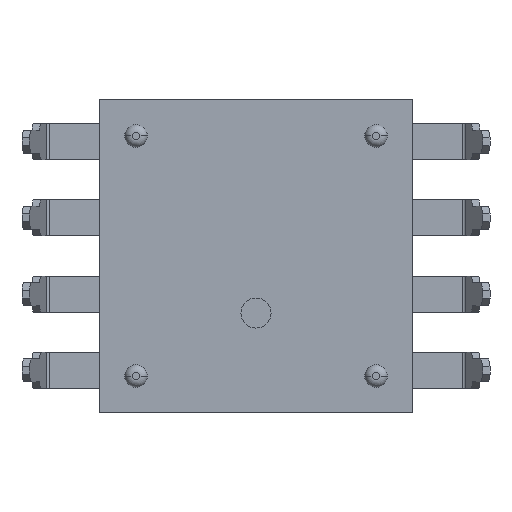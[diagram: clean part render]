
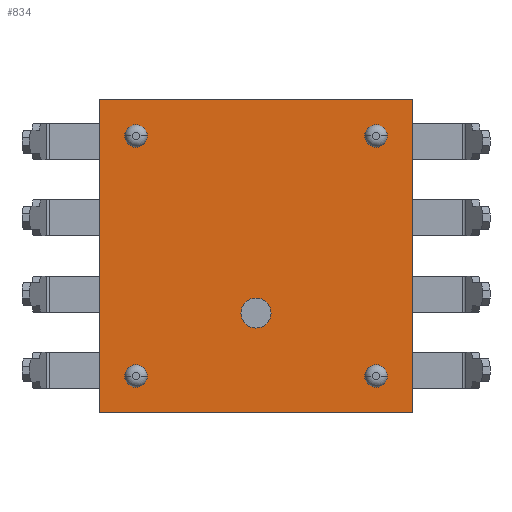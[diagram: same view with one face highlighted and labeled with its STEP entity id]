
A CAD part, front view. The second image highlights one B-rep face of the part: STEP entity #834.
In plain terms, the highlighted planar face has unit normal (0, -1, 0).
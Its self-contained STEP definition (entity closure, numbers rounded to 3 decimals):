
#9 = ORIENTED_EDGE ( 'NONE', *, *, #1480, .F. ) ;
#13 = EDGE_LOOP ( 'NONE', ( #532, #9 ) ) ;
#19 = ORIENTED_EDGE ( 'NONE', *, *, #1425, .F. ) ;
#20 = EDGE_CURVE ( 'NONE', #1469, #1371, #2009, .T. ) ;
#52 = EDGE_CURVE ( 'NONE', #1364, #1360, #2085, .T. ) ;
#532 = ORIENTED_EDGE ( 'NONE', *, *, #20, .F. ) ;
#757 = EDGE_LOOP ( 'NONE', ( #763, #767 ) ) ;
#758 = EDGE_CURVE ( 'NONE', #1459, #1468, #3259, .T. ) ;
#759 = ORIENTED_EDGE ( 'NONE', *, *, #827, .F. ) ;
#760 = EDGE_LOOP ( 'NONE', ( #769, #826, #759, #762 ) ) ;
#761 = ORIENTED_EDGE ( 'NONE', *, *, #758, .F. ) ;
#762 = ORIENTED_EDGE ( 'NONE', *, *, #828, .F. ) ;
#763 = ORIENTED_EDGE ( 'NONE', *, *, #1429, .F. ) ;
#764 = EDGE_CURVE ( 'NONE', #765, #766, #3250, .T. ) ;
#765 = VERTEX_POINT ( 'NONE', #3252 ) ;
#766 = VERTEX_POINT ( 'NONE', #3224 ) ;
#767 = ORIENTED_EDGE ( 'NONE', *, *, #793, .F. ) ;
#768 = EDGE_CURVE ( 'NONE', #824, #765, #3313, .T. ) ;
#769 = ORIENTED_EDGE ( 'NONE', *, *, #764, .F. ) ;
#785 = ORIENTED_EDGE ( 'NONE', *, *, #1472, .F. ) ;
#788 = EDGE_CURVE ( 'NONE', #1411, #1409, #3334, .T. ) ;
#793 = EDGE_CURVE ( 'NONE', #1414, #1415, #3320, .T. ) ;
#796 = EDGE_LOOP ( 'NONE', ( #836, #835 ) ) ;
#824 = VERTEX_POINT ( 'NONE', #3373 ) ;
#825 = EDGE_LOOP ( 'NONE', ( #831, #19 ) ) ;
#826 = ORIENTED_EDGE ( 'NONE', *, *, #768, .F. ) ;
#827 = EDGE_CURVE ( 'NONE', #833, #824, #3345, .T. ) ;
#828 = EDGE_CURVE ( 'NONE', #766, #833, #3392, .T. ) ;
#831 = ORIENTED_EDGE ( 'NONE', *, *, #52, .F. ) ;
#832 = EDGE_LOOP ( 'NONE', ( #785, #761 ) ) ;
#833 = VERTEX_POINT ( 'NONE', #3390 ) ;
#834 = ADVANCED_FACE ( 'NONE', ( #3377, #3389, #3382, #3400, #3396, #3376 ), #3385, .T. ) ;
#835 = ORIENTED_EDGE ( 'NONE', *, *, #1437, .F. ) ;
#836 = ORIENTED_EDGE ( 'NONE', *, *, #788, .F. ) ;
#1360 = VERTEX_POINT ( 'NONE', #4286 ) ;
#1364 = VERTEX_POINT ( 'NONE', #4338 ) ;
#1371 = VERTEX_POINT ( 'NONE', #4319 ) ;
#1409 = VERTEX_POINT ( 'NONE', #4387 ) ;
#1411 = VERTEX_POINT ( 'NONE', #4422 ) ;
#1414 = VERTEX_POINT ( 'NONE', #4417 ) ;
#1415 = VERTEX_POINT ( 'NONE', #4416 ) ;
#1425 = EDGE_CURVE ( 'NONE', #1360, #1364, #4456, .T. ) ;
#1429 = EDGE_CURVE ( 'NONE', #1415, #1414, #4438, .T. ) ;
#1437 = EDGE_CURVE ( 'NONE', #1409, #1411, #4430, .T. ) ;
#1459 = VERTEX_POINT ( 'NONE', #4518 ) ;
#1468 = VERTEX_POINT ( 'NONE', #4539 ) ;
#1469 = VERTEX_POINT ( 'NONE', #4552 ) ;
#1472 = EDGE_CURVE ( 'NONE', #1468, #1459, #4540, .T. ) ;
#1480 = EDGE_CURVE ( 'NONE', #1371, #1469, #4533, .T. ) ;
#1578 = DIRECTION ( 'NONE',  ( 1., 0., 0. ) ) ;
#1579 = DIRECTION ( 'NONE',  ( 0., -1., 0. ) ) ;
#2001 = DIRECTION ( 'NONE',  ( -1., 0., 0. ) ) ;
#2002 = DIRECTION ( 'NONE',  ( 0., -1., 0. ) ) ;
#2003 = CARTESIAN_POINT ( 'NONE',  ( -4., 0.25, -4. ) ) ;
#2008 = AXIS2_PLACEMENT_3D ( 'NONE', #2003, #2002, #2001 ) ;
#2009 = CIRCLE ( 'NONE', #2008, 0.375 ) ;
#2070 = DIRECTION ( 'NONE',  ( -1., 0., 0. ) ) ;
#2071 = DIRECTION ( 'NONE',  ( 0., -1., 0. ) ) ;
#2081 = AXIS2_PLACEMENT_3D ( 'NONE', #2090, #2071, #2070 ) ;
#2085 = CIRCLE ( 'NONE', #2081, 0.375 ) ;
#2090 = CARTESIAN_POINT ( 'NONE',  ( 4., 0.25, 4. ) ) ;
#3224 = CARTESIAN_POINT ( 'NONE',  ( -5.2, 0.25, 5.2 ) ) ;
#3248 = VECTOR ( 'NONE', #3314, 1000. ) ;
#3249 = CARTESIAN_POINT ( 'NONE',  ( -5.2, 0.25, 5.2 ) ) ;
#3250 = LINE ( 'NONE', #3249, #3248 ) ;
#3252 = CARTESIAN_POINT ( 'NONE',  ( -5.2, 0.25, -5.2 ) ) ;
#3254 = DIRECTION ( 'NONE',  ( 1., 0., 0. ) ) ;
#3255 = DIRECTION ( 'NONE',  ( 0., -1., 0. ) ) ;
#3259 = CIRCLE ( 'NONE', #3276, 0.375 ) ;
#3266 = CARTESIAN_POINT ( 'NONE',  ( 4., 0.25, -4. ) ) ;
#3276 = AXIS2_PLACEMENT_3D ( 'NONE', #3266, #3255, #3254 ) ;
#3281 = DIRECTION ( 'NONE',  ( 0., -1., 0. ) ) ;
#3308 = DIRECTION ( 'NONE',  ( -1., 0., 0. ) ) ;
#3309 = VECTOR ( 'NONE', #3308, 1000. ) ;
#3312 = CARTESIAN_POINT ( 'NONE',  ( -5.2, 0.25, -5.2 ) ) ;
#3313 = LINE ( 'NONE', #3312, #3309 ) ;
#3314 = DIRECTION ( 'NONE',  ( 0., 0., 1. ) ) ;
#3320 = CIRCLE ( 'NONE', #3331, 0.375 ) ;
#3324 = DIRECTION ( 'NONE',  ( 1., 0., 0. ) ) ;
#3326 = AXIS2_PLACEMENT_3D ( 'NONE', #3332, #3281, #3324 ) ;
#3331 = AXIS2_PLACEMENT_3D ( 'NONE', #3333, #1579, #1578 ) ;
#3332 = CARTESIAN_POINT ( 'NONE',  ( 0., 0.25, -1.9 ) ) ;
#3333 = CARTESIAN_POINT ( 'NONE',  ( -4., 0.25, 4. ) ) ;
#3334 = CIRCLE ( 'NONE', #3326, 0.5 ) ;
#3345 = LINE ( 'NONE', #3353, #3393 ) ;
#3352 = DIRECTION ( 'NONE',  ( 0., 0., -1. ) ) ;
#3353 = CARTESIAN_POINT ( 'NONE',  ( 5.2, 0.25, 5.2 ) ) ;
#3373 = CARTESIAN_POINT ( 'NONE',  ( 5.2, 0.25, -5.2 ) ) ;
#3376 = FACE_BOUND ( 'NONE', #13, .T. ) ;
#3377 = FACE_BOUND ( 'NONE', #796, .T. ) ;
#3381 = AXIS2_PLACEMENT_3D ( 'NONE', #3383, #3442, #3441 ) ;
#3382 = FACE_BOUND ( 'NONE', #757, .T. ) ;
#3383 = CARTESIAN_POINT ( 'NONE',  ( -5.2, 0.25, -5.2 ) ) ;
#3385 = PLANE ( 'NONE',  #3381 ) ;
#3387 = DIRECTION ( 'NONE',  ( 1., 0., 0. ) ) ;
#3388 = VECTOR ( 'NONE', #3387, 1000. ) ;
#3389 = FACE_BOUND ( 'NONE', #832, .T. ) ;
#3390 = CARTESIAN_POINT ( 'NONE',  ( 5.2, 0.25, 5.2 ) ) ;
#3391 = CARTESIAN_POINT ( 'NONE',  ( -5.2, 0.25, 5.2 ) ) ;
#3392 = LINE ( 'NONE', #3391, #3388 ) ;
#3393 = VECTOR ( 'NONE', #3352, 1000. ) ;
#3396 = FACE_BOUND ( 'NONE', #825, .T. ) ;
#3400 = FACE_OUTER_BOUND ( 'NONE', #760, .T. ) ;
#3441 = DIRECTION ( 'NONE',  ( 1., 0., 0. ) ) ;
#3442 = DIRECTION ( 'NONE',  ( 0., -1., 0. ) ) ;
#4286 = CARTESIAN_POINT ( 'NONE',  ( 4.375, 0.25, 4. ) ) ;
#4319 = CARTESIAN_POINT ( 'NONE',  ( -3.625, 0.25, -4. ) ) ;
#4338 = CARTESIAN_POINT ( 'NONE',  ( 3.625, 0.25, 4. ) ) ;
#4387 = CARTESIAN_POINT ( 'NONE',  ( -0.5, 0.25, -1.9 ) ) ;
#4416 = CARTESIAN_POINT ( 'NONE',  ( -3.625, 0.25, 4. ) ) ;
#4417 = CARTESIAN_POINT ( 'NONE',  ( -4.375, 0.25, 4. ) ) ;
#4422 = CARTESIAN_POINT ( 'NONE',  ( 0.5, 0.25, -1.9 ) ) ;
#4430 = CIRCLE ( 'NONE', #4493, 0.5 ) ;
#4435 = DIRECTION ( 'NONE',  ( 1., 0., 0. ) ) ;
#4436 = DIRECTION ( 'NONE',  ( 0., -1., 0. ) ) ;
#4437 = AXIS2_PLACEMENT_3D ( 'NONE', #4451, #4436, #4435 ) ;
#4438 = CIRCLE ( 'NONE', #4437, 0.375 ) ;
#4446 = DIRECTION ( 'NONE',  ( -1., 0., 0. ) ) ;
#4447 = DIRECTION ( 'NONE',  ( 0., -1., 0. ) ) ;
#4448 = CARTESIAN_POINT ( 'NONE',  ( 4., 0.25, 4. ) ) ;
#4449 = AXIS2_PLACEMENT_3D ( 'NONE', #4448, #4447, #4446 ) ;
#4451 = CARTESIAN_POINT ( 'NONE',  ( -4., 0.25, 4. ) ) ;
#4456 = CIRCLE ( 'NONE', #4449, 0.375 ) ;
#4483 = DIRECTION ( 'NONE',  ( 1., 0., 0. ) ) ;
#4484 = DIRECTION ( 'NONE',  ( 0., -1., 0. ) ) ;
#4485 = CARTESIAN_POINT ( 'NONE',  ( 0., 0.25, -1.9 ) ) ;
#4493 = AXIS2_PLACEMENT_3D ( 'NONE', #4485, #4484, #4483 ) ;
#4518 = CARTESIAN_POINT ( 'NONE',  ( 3.625, 0.25, -4. ) ) ;
#4526 = AXIS2_PLACEMENT_3D ( 'NONE', #4584, #4583, #4582 ) ;
#4530 = DIRECTION ( 'NONE',  ( 1., 0., 0. ) ) ;
#4531 = DIRECTION ( 'NONE',  ( 0., -1., 0. ) ) ;
#4532 = AXIS2_PLACEMENT_3D ( 'NONE', #4534, #4531, #4530 ) ;
#4533 = CIRCLE ( 'NONE', #4526, 0.375 ) ;
#4534 = CARTESIAN_POINT ( 'NONE',  ( 4., 0.25, -4. ) ) ;
#4539 = CARTESIAN_POINT ( 'NONE',  ( 4.375, 0.25, -4. ) ) ;
#4540 = CIRCLE ( 'NONE', #4532, 0.375 ) ;
#4552 = CARTESIAN_POINT ( 'NONE',  ( -4.375, 0.25, -4. ) ) ;
#4582 = DIRECTION ( 'NONE',  ( -1., 0., 0. ) ) ;
#4583 = DIRECTION ( 'NONE',  ( 0., -1., 0. ) ) ;
#4584 = CARTESIAN_POINT ( 'NONE',  ( -4., 0.25, -4. ) ) ;
